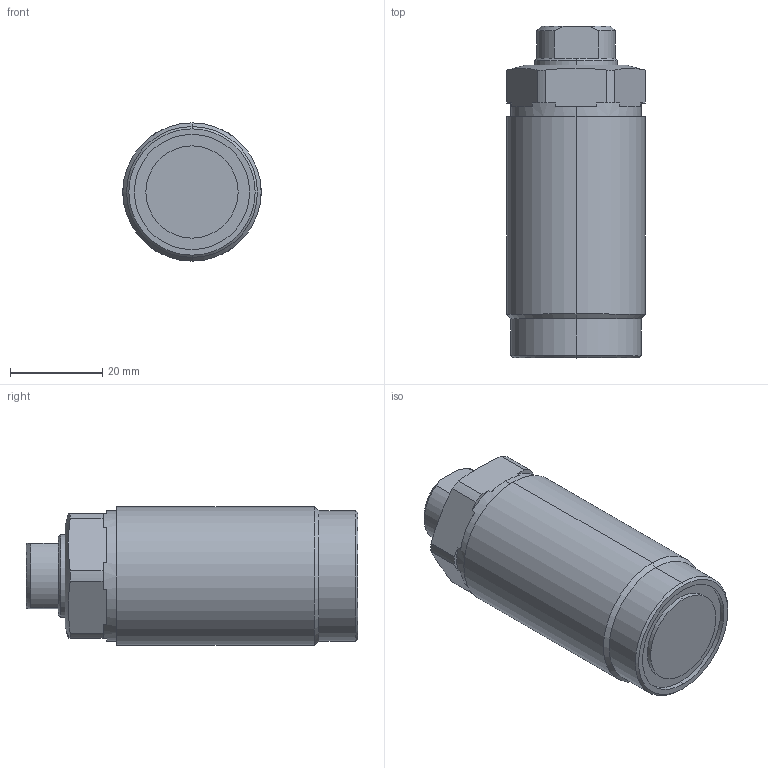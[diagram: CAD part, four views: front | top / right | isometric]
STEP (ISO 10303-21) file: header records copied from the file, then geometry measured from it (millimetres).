
FILE_DESCRIPTION (( 'STEP AP203' ), '1' );
FILE_NAME ('T03C-M303-L threaded pusher.STEP', '2022-07-09T17:38:20', ( '' ), ( '' ), 'SwSTEP 2.0', 'SolidWorks 2017', '' );
FILE_SCHEMA (( 'CONFIG_CONTROL_DESIGN' ));
Length unit declared in the file: millimetre
Products named in the file (3): T03C-M303-L part-2; T03C-M303-L threaded pusher; T03C-M303-L part-1
Assembly tree (2 placements, depth 2):
  T03C-M303-L threaded pusher
    T03C-M303-L part-1
    T03C-M303-L part-2
Bounding box: 30 x 72 x 30 mm (x, y, z)
Volume: 53415.6 mm3; surface area: 10581 mm2
Topology: 2 solids, 2 shells, 257 faces, 679 edges, 447 vertices
Faces by surface type: plane 122, bspline 99, cylinder 22, cone 14
Entity records: 13187 total; most frequent: CARTESIAN_POINT 7268, ORIENTED_EDGE 1354, DIRECTION 811, EDGE_CURVE 677, VERTEX_POINT 447, LINE 353, VECTOR 353, EDGE_LOOP 280
